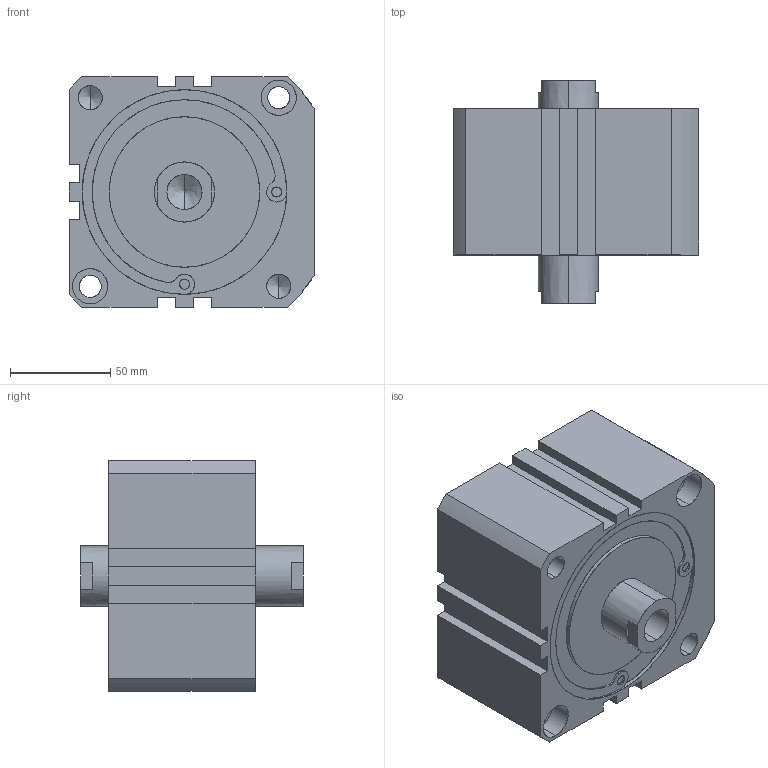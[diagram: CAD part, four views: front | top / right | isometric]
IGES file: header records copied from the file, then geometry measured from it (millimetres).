
Start section: SolidWorks IGES file using analytic representation for surfaces
Global section: file name: C:\Users\Toshiba\Desktop\XC#7-100-10.IGS; native system: SolidWorks 2014; preprocessor: SolidWorks 2014; author: Toshiba; date: 160523.162828; units: millimetre
Bounding box: 122.5 x 111 x 115 mm (x, y, z)
Surface area: 85560.8 mm2 (no closed solid volume)
Topology: 0 solids, 0 shells, 142 faces, 2636 edges, 2620 vertices
Faces by surface type: revolution 86, bspline 56
